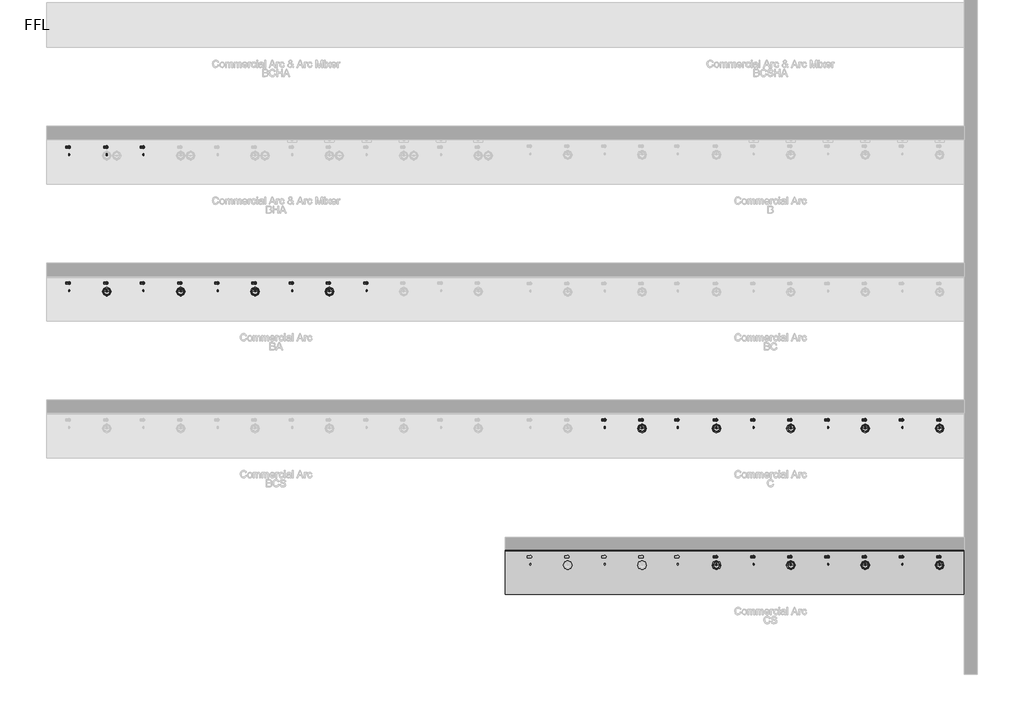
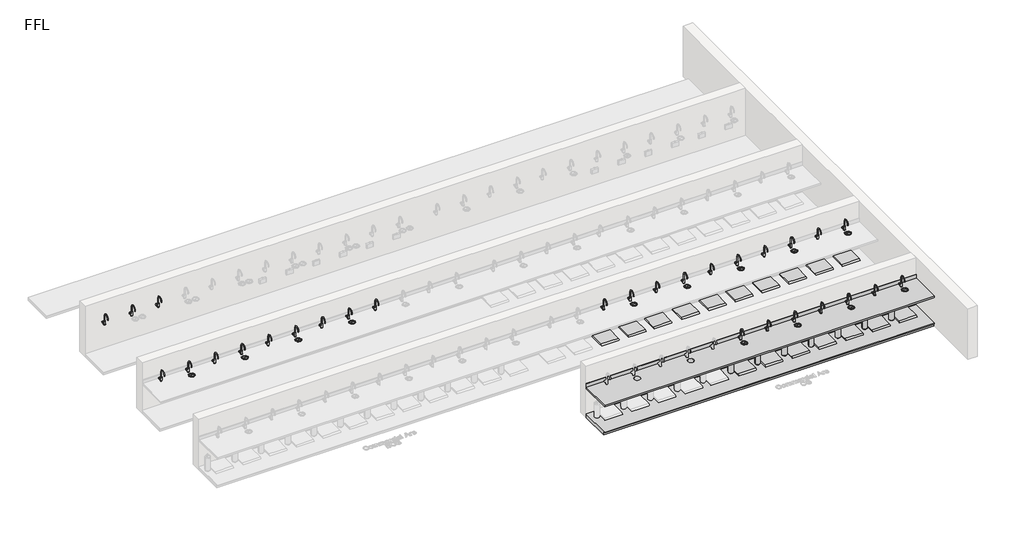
# One storey, part 3 of 10: 86 flow terminals, 2 furniture elements.
"""IFC4 building model written with IfcOpenShell, lengths in millimetres."""

from ifc_helpers import new_model, si_unit, frame, origin, place, context, project, spatial, polyline, circle_curve, transform, mapped, element, save
from ifc_brep_helpers import plane_surface, revolved_surface, advanced_brep
from components import flow_terminal_1fd3c137, bright_chrome_dafbc2dd, brushed_chrome_743c02cf, co2_gas_cylinder_20234e14, bcs_and_bc_6de74493, generic_plinth_900mm_24ad1541

model = new_model("IFC4")

# Units and contexts
model_context = context("Model", 3, world=origin())
ifc_project = project(units=[si_unit("LENGTHUNIT", "METRE", prefix="MILLI")], contexts=[model_context])

# Site, building, storey
site = spatial("IfcSite", under=ifc_project)
building = spatial("IfcBuilding", under=site)
storey = spatial("IfcBuildingStorey", under=building, Name="FFL", Elevation=0.0)

# Flow terminals
placement = place(None, origin())
flow_terminal_shape = flow_terminal_1fd3c137(model_context)
element("IfcFlowTerminal", 1, ObjectType="z_PlumFixt_Zenith_Booster : Booster", at=placement, inside=storey, context=model_context, shape_type="MappedRepresentation", body=[
    mapped(flow_terminal_shape, transform((4286.2647071, -379.7606696, 538.0), x_axis=(1.0, 0.0, 0.0), y_axis=(0.0, 1.0, 0.0), z_axis=(0.0, 0.0, 1.0))),
])
element("IfcFlowTerminal", 2, ObjectType="z_PlumFixt_Zenith_Booster : Booster", at=placement, inside=storey, context=model_context, shape_type="MappedRepresentation", body=[
    mapped(flow_terminal_shape, transform((5036.2647071, -379.7606696, 538.0), x_axis=(1.0, 0.0, 0.0), y_axis=(0.0, 1.0, 0.0), z_axis=(0.0, 0.0, 1.0))),
])
element("IfcFlowTerminal", 3, ObjectType="z_PlumFixt_Zenith_Booster : Booster", at=placement, inside=storey, context=model_context, shape_type="MappedRepresentation", body=[
    mapped(flow_terminal_shape, transform((5758.2647071, -379.7606696, 538.0), x_axis=(1.0, 0.0, 0.0), y_axis=(0.0, 1.0, 0.0), z_axis=(0.0, 0.0, 1.0))),
])
element("IfcFlowTerminal", 4, ObjectType="z_PlumFixt_Zenith_Booster : Booster", at=placement, inside=storey, context=model_context, shape_type="MappedRepresentation", body=[
    mapped(flow_terminal_shape, transform((6536.2647071, -379.7606696, 538.0), x_axis=(1.0, 0.0, 0.0), y_axis=(0.0, 1.0, 0.0), z_axis=(0.0, 0.0, 1.0))),
])
element("IfcFlowTerminal", 5, ObjectType="z_PlumFixt_Zenith_Booster : Booster", at=placement, inside=storey, context=model_context, shape_type="MappedRepresentation", body=[
    mapped(flow_terminal_shape, transform((7286.2647071, -379.7606696, 538.0), x_axis=(1.0, 0.0, 0.0), y_axis=(0.0, 1.0, 0.0), z_axis=(0.0, 0.0, 1.0))),
])
element("IfcFlowTerminal", 6, ObjectType="z_PlumFixt_Zenith_Booster : Booster", at=placement, inside=storey, context=model_context, shape_type="MappedRepresentation", body=[
    mapped(flow_terminal_shape, transform((8036.2647071, -379.7606696, 538.0), x_axis=(1.0, 0.0, 0.0), y_axis=(0.0, 1.0, 0.0), z_axis=(0.0, 0.0, 1.0))),
])
element("IfcFlowTerminal", 7, ObjectType="z_PlumFixt_Zenith_Booster : Booster", at=placement, inside=storey, context=model_context, shape_type="MappedRepresentation", body=[
    mapped(flow_terminal_shape, transform((8786.2647071, -379.7606696, 538.0), x_axis=(1.0, 0.0, 0.0), y_axis=(0.0, 1.0, 0.0), z_axis=(0.0, 0.0, 1.0))),
])
element("IfcFlowTerminal", 8, ObjectType="z_PlumFixt_Zenith_Booster : Booster", at=placement, inside=storey, context=model_context, shape_type="MappedRepresentation", body=[
    mapped(flow_terminal_shape, transform((9536.2647071, -379.7606696, 538.0), x_axis=(1.0, 0.0, 0.0), y_axis=(0.0, 1.0, 0.0), z_axis=(0.0, 0.0, 1.0))),
])
element("IfcFlowTerminal", 9, ObjectType="z_PlumFixt_Zenith_Booster : Booster", at=placement, inside=storey, context=model_context, shape_type="MappedRepresentation", body=[
    mapped(flow_terminal_shape, transform((10286.2647071, -379.7606696, 538.0), x_axis=(1.0, 0.0, 0.0), y_axis=(0.0, 1.0, 0.0), z_axis=(0.0, 0.0, 1.0))),
])
element("IfcFlowTerminal", 10, ObjectType="z_PlumFixt_Zenith_Booster : Booster", at=placement, inside=storey, context=model_context, shape_type="MappedRepresentation", body=[
    mapped(flow_terminal_shape, transform((11036.2647071, -379.7606696, 538.0), x_axis=(1.0, 0.0, 0.0), y_axis=(0.0, 1.0, 0.0), z_axis=(0.0, 0.0, 1.0))),
])
element("IfcFlowTerminal", 11, ObjectType="z_PlumFixt_Zenith_Booster : Booster", at=placement, inside=storey, context=model_context, shape_type="MappedRepresentation", body=[
    mapped(flow_terminal_shape, transform((6536.2647071, -3139.7606696, 538.0), x_axis=(1.0, 0.0, 0.0), y_axis=(0.0, 1.0, 0.0), z_axis=(0.0, 0.0, 1.0))),
])
element("IfcFlowTerminal", 12, ObjectType="z_PlumFixt_Zenith_Booster : Booster", at=placement, inside=storey, context=model_context, shape_type="MappedRepresentation", body=[
    mapped(flow_terminal_shape, transform((7286.2647071, -3139.7606696, 538.0), x_axis=(1.0, 0.0, 0.0), y_axis=(0.0, 1.0, 0.0), z_axis=(0.0, 0.0, 1.0))),
])
element("IfcFlowTerminal", 13, ObjectType="z_PlumFixt_Zenith_Booster : Booster", at=placement, inside=storey, context=model_context, shape_type="MappedRepresentation", body=[
    mapped(flow_terminal_shape, transform((8036.2647071, -3139.7606696, 538.0), x_axis=(1.0, 0.0, 0.0), y_axis=(0.0, 1.0, 0.0), z_axis=(0.0, 0.0, 1.0))),
])
element("IfcFlowTerminal", 14, ObjectType="z_PlumFixt_Zenith_Booster : Booster", at=placement, inside=storey, context=model_context, shape_type="MappedRepresentation", body=[
    mapped(flow_terminal_shape, transform((8786.2647071, -3139.7606696, 538.0), x_axis=(1.0, 0.0, 0.0), y_axis=(0.0, 1.0, 0.0), z_axis=(0.0, 0.0, 1.0))),
])
element("IfcFlowTerminal", 15, ObjectType="z_PlumFixt_Zenith_Booster : Booster", at=placement, inside=storey, context=model_context, shape_type="MappedRepresentation", body=[
    mapped(flow_terminal_shape, transform((9536.2647071, -3139.7606696, 538.0), x_axis=(1.0, 0.0, 0.0), y_axis=(0.0, 1.0, 0.0), z_axis=(0.0, 0.0, 1.0))),
])
element("IfcFlowTerminal", 16, ObjectType="z_PlumFixt_Zenith_Booster : Booster", at=placement, inside=storey, context=model_context, shape_type="MappedRepresentation", body=[
    mapped(flow_terminal_shape, transform((10286.2647071, -3139.7606696, 538.0), x_axis=(1.0, 0.0, 0.0), y_axis=(0.0, 1.0, 0.0), z_axis=(0.0, 0.0, 1.0))),
])
element("IfcFlowTerminal", 17, ObjectType="z_PlumFixt_Zenith_Booster : Booster", at=placement, inside=storey, context=model_context, shape_type="MappedRepresentation", body=[
    mapped(flow_terminal_shape, transform((11036.2647071, -3139.7606696, 538.0), x_axis=(1.0, 0.0, 0.0), y_axis=(0.0, 1.0, 0.0), z_axis=(0.0, 0.0, 1.0))),
])
element("IfcFlowTerminal", 18, ObjectType="z_PlumFixt_Zenith_Booster : Booster", at=placement, inside=storey, context=model_context, shape_type="MappedRepresentation", body=[
    mapped(flow_terminal_shape, transform((-516.7352929, 2380.2393304, 498.0), x_axis=(1.0, 0.0, 0.0), y_axis=(0.0, 1.0, 0.0), z_axis=(0.0, 0.0, 1.0))),
])
element("IfcFlowTerminal", 19, ObjectType="z_PlumFixt_Zenith_Booster : Booster", at=placement, inside=storey, context=model_context, shape_type="MappedRepresentation", body=[
    mapped(flow_terminal_shape, transform((-1266.7352929, 2380.2393304, 498.0), x_axis=(1.0, 0.0, 0.0), y_axis=(0.0, 1.0, 0.0), z_axis=(0.0, 0.0, 1.0))),
])
element("IfcFlowTerminal", 20, ObjectType="z_PlumFixt_Zenith_Booster : Booster", at=placement, inside=storey, context=model_context, shape_type="MappedRepresentation", body=[
    mapped(flow_terminal_shape, transform((-2016.7352929, 2380.2393304, 498.0), x_axis=(1.0, 0.0, 0.0), y_axis=(0.0, 1.0, 0.0), z_axis=(0.0, 0.0, 1.0))),
])
bright_chrome_shape = bright_chrome_dafbc2dd(model_context)
element("IfcFlowTerminal", 21, ObjectType="z_PlumFixt_Zenith_Arc : Bright Chrome", at=placement, inside=storey, context=model_context, shape_type="MappedRepresentation", body=[
    mapped(bright_chrome_shape, transform((-6533.7352929, 2105.7393304, 900.0), x_axis=(1.0, 0.0, 0.0), y_axis=(0.0, 1.0, 0.0), z_axis=(0.0, 0.0, 1.0))),
])
element("IfcFlowTerminal", 22, ObjectType="z_PlumFixt_Zenith_Arc : Bright Chrome", at=placement, inside=storey, context=model_context, shape_type="MappedRepresentation", body=[
    mapped(bright_chrome_shape, transform((-6533.7352929, 4850.7393304, 900.0), x_axis=(1.0, 0.0, 0.0), y_axis=(0.0, 1.0, 0.0), z_axis=(0.0, 0.0, 1.0))),
])
brushed_chrome_shape = brushed_chrome_743c02cf(model_context)
element("IfcFlowTerminal", 23, ObjectType="z_PlumFixt_Zenith_Font : Brushed Chrome", at=placement, inside=storey, context=model_context, shape_type="MappedRepresentation", body=[
    mapped(brushed_chrome_shape, transform((-5756.7352929, 2006.2393304, 900.0), x_axis=(1.0, 0.0, 0.0), y_axis=(0.0, 1.0, 0.0), z_axis=(0.0, 0.0, 1.0))),
])
element("IfcFlowTerminal", 24, ObjectType="z_PlumFixt_Zenith_Arc : Brushed Chrome", at=placement, inside=storey, context=model_context, shape_type="MappedRepresentation", body=[
    mapped(bright_chrome_shape, transform((-5773.7352929, 2105.7393304, 900.0), x_axis=(1.0, 0.0, 0.0), y_axis=(0.0, 1.0, 0.0), z_axis=(0.0, 0.0, 1.0))),
])
element("IfcFlowTerminal", 25, ObjectType="z_PlumFixt_Zenith_Arc : Brushed Chrome", at=placement, inside=storey, context=model_context, shape_type="MappedRepresentation", body=[
    mapped(bright_chrome_shape, transform((-5773.7352929, 4850.7393304, 900.0), x_axis=(1.0, 0.0, 0.0), y_axis=(0.0, 1.0, 0.0), z_axis=(0.0, 0.0, 1.0))),
])
element("IfcFlowTerminal", 26, ObjectType="z_PlumFixt_Zenith_Arc : Brushed Gold", at=placement, inside=storey, context=model_context, shape_type="MappedRepresentation", body=[
    mapped(bright_chrome_shape, transform((4269.2647071, -654.2606696, 900.0), x_axis=(1.0, 0.0, 0.0), y_axis=(0.0, 1.0, 0.0), z_axis=(0.0, 0.0, 1.0))),
])
element("IfcFlowTerminal", 27, ObjectType="z_PlumFixt_Zenith_Arc : Brushed Gold", at=placement, inside=storey, context=model_context, shape_type="MappedRepresentation", body=[
    mapped(bright_chrome_shape, transform((-5033.7352929, 2105.7393304, 900.0), x_axis=(1.0, 0.0, 0.0), y_axis=(0.0, 1.0, 0.0), z_axis=(0.0, 0.0, 1.0))),
])
element("IfcFlowTerminal", 28, ObjectType="z_PlumFixt_Zenith_Arc : Brushed Gold", at=placement, inside=storey, context=model_context, shape_type="MappedRepresentation", body=[
    mapped(bright_chrome_shape, transform((-5033.7352929, 4850.7393304, 900.0), x_axis=(1.0, 0.0, 0.0), y_axis=(0.0, 1.0, 0.0), z_axis=(0.0, 0.0, 1.0))),
])
element("IfcFlowTerminal", 29, ObjectType="z_PlumFixt_Zenith_Font : Brushed Nickel", at=placement, inside=storey, context=model_context, shape_type="MappedRepresentation", body=[
    mapped(brushed_chrome_shape, transform((5036.2647071, -753.7606696, 900.0), x_axis=(1.0, 0.0, 0.0), y_axis=(0.0, 1.0, 0.0), z_axis=(0.0, 0.0, 1.0))),
])
element("IfcFlowTerminal", 30, ObjectType="z_PlumFixt_Zenith_Font : Brushed Nickel", at=placement, inside=storey, context=model_context, shape_type="MappedRepresentation", body=[
    mapped(brushed_chrome_shape, transform((-4266.7352929, 2006.2393304, 900.0), x_axis=(1.0, 0.0, 0.0), y_axis=(0.0, 1.0, 0.0), z_axis=(0.0, 0.0, 1.0))),
])
element("IfcFlowTerminal", 31, ObjectType="z_PlumFixt_Zenith_Arc : Brushed Nickel", at=placement, inside=storey, context=model_context, shape_type="MappedRepresentation", body=[
    mapped(bright_chrome_shape, transform((5019.2647071, -654.2606696, 900.0), x_axis=(1.0, 0.0, 0.0), y_axis=(0.0, 1.0, 0.0), z_axis=(0.0, 0.0, 1.0))),
])
element("IfcFlowTerminal", 32, ObjectType="z_PlumFixt_Zenith_Arc : Brushed Nickel", at=placement, inside=storey, context=model_context, shape_type="MappedRepresentation", body=[
    mapped(bright_chrome_shape, transform((-4283.7352929, 2105.7393304, 900.0), x_axis=(1.0, 0.0, 0.0), y_axis=(0.0, 1.0, 0.0), z_axis=(0.0, 0.0, 1.0))),
])
element("IfcFlowTerminal", 33, ObjectType="z_PlumFixt_Zenith_Arc : Brushed Rose Gold", at=placement, inside=storey, context=model_context, shape_type="MappedRepresentation", body=[
    mapped(bright_chrome_shape, transform((5741.2647071, -654.2606696, 900.0), x_axis=(1.0, 0.0, 0.0), y_axis=(0.0, 1.0, 0.0), z_axis=(0.0, 0.0, 1.0))),
])
element("IfcFlowTerminal", 34, ObjectType="z_PlumFixt_Zenith_Arc : Brushed Rose Gold", at=placement, inside=storey, context=model_context, shape_type="MappedRepresentation", body=[
    mapped(bright_chrome_shape, transform((-3533.7352929, 2105.7393304, 900.0), x_axis=(1.0, 0.0, 0.0), y_axis=(0.0, 1.0, 0.0), z_axis=(0.0, 0.0, 1.0))),
])
co2_gas_cylinder_shape = co2_gas_cylinder_20234e14(model_context)
element("IfcFlowTerminal", 35, ObjectType="z_PlumFixt_Zenith_CO2 Gas Cylinder : CO2 Gas Cylinder", at=placement, inside=storey, context=model_context, shape_type="MappedRepresentation", body=[
    mapped(co2_gas_cylinder_shape, transform((6198.2647071, -3521.7606696, 100.0), x_axis=(-1.0, 0.0, 0.0), y_axis=(0.0, -1.0, 0.0), z_axis=(0.0, 0.0, 1.0))),
])
element("IfcFlowTerminal", 36, ObjectType="z_PlumFixt_Zenith_CO2 Gas Cylinder : CO2 Gas Cylinder", at=placement, inside=storey, context=model_context, shape_type="MappedRepresentation", body=[
    mapped(co2_gas_cylinder_shape, transform((6948.2647071, -3521.7606696, 100.0), x_axis=(-1.0, 0.0, 0.0), y_axis=(0.0, -1.0, 0.0), z_axis=(0.0, 0.0, 1.0))),
])
element("IfcFlowTerminal", 37, ObjectType="z_PlumFixt_Zenith_CO2 Gas Cylinder : CO2 Gas Cylinder", at=placement, inside=storey, context=model_context, shape_type="MappedRepresentation", body=[
    mapped(co2_gas_cylinder_shape, transform((7698.2647071, -3521.7606696, 100.0), x_axis=(-1.0, 0.0, 0.0), y_axis=(0.0, -1.0, 0.0), z_axis=(0.0, 0.0, 1.0))),
])
element("IfcFlowTerminal", 38, ObjectType="z_PlumFixt_Zenith_CO2 Gas Cylinder : CO2 Gas Cylinder", at=placement, inside=storey, context=model_context, shape_type="MappedRepresentation", body=[
    mapped(co2_gas_cylinder_shape, transform((8448.2647071, -3521.7606696, 100.0), x_axis=(-1.0, 0.0, 0.0), y_axis=(0.0, -1.0, 0.0), z_axis=(0.0, 0.0, 1.0))),
])
element("IfcFlowTerminal", 39, ObjectType="z_PlumFixt_Zenith_CO2 Gas Cylinder : CO2 Gas Cylinder", at=placement, inside=storey, context=model_context, shape_type="MappedRepresentation", body=[
    mapped(co2_gas_cylinder_shape, transform((9198.2647071, -3521.7606696, 100.0), x_axis=(-1.0, 0.0, 0.0), y_axis=(0.0, -1.0, 0.0), z_axis=(0.0, 0.0, 1.0))),
])
element("IfcFlowTerminal", 40, ObjectType="z_PlumFixt_Zenith_CO2 Gas Cylinder : CO2 Gas Cylinder", at=placement, inside=storey, context=model_context, shape_type="MappedRepresentation", body=[
    mapped(co2_gas_cylinder_shape, transform((9948.2647071, -3521.7606696, 100.0), x_axis=(-1.0, 0.0, 0.0), y_axis=(0.0, -1.0, 0.0), z_axis=(0.0, 0.0, 1.0))),
])
element("IfcFlowTerminal", 41, ObjectType="z_PlumFixt_Zenith_CO2 Gas Cylinder : CO2 Gas Cylinder", at=placement, inside=storey, context=model_context, shape_type="MappedRepresentation", body=[
    mapped(co2_gas_cylinder_shape, transform((10698.2647071, -3521.7606696, 100.0), x_axis=(-1.0, 0.0, 0.0), y_axis=(0.0, -1.0, 0.0), z_axis=(0.0, 0.0, 1.0))),
])
bcs_and_bc_shape = bcs_and_bc_6de74493(model_context)
element("IfcFlowTerminal", 42, ObjectType="z_PlumFixt_Zenith_Vent Tray : CS and C", at=placement, inside=storey, context=model_context, shape_type="MappedRepresentation", body=[
    mapped(bcs_and_bc_shape, transform((4286.2647071, -559.2606696, 100.0), x_axis=(1.0, 0.0, 0.0), y_axis=(0.0, 1.0, 0.0), z_axis=(0.0, 0.0, 1.0))),
])
element("IfcFlowTerminal", 43, ObjectType="z_PlumFixt_Zenith_Vent Tray : CS and C", at=placement, inside=storey, context=model_context, shape_type="MappedRepresentation", body=[
    mapped(bcs_and_bc_shape, transform((5036.2647071, -559.2606696, 100.0), x_axis=(1.0, 0.0, 0.0), y_axis=(0.0, 1.0, 0.0), z_axis=(0.0, 0.0, 1.0))),
])
element("IfcFlowTerminal", 44, ObjectType="z_PlumFixt_Zenith_Vent Tray : CS and C", at=placement, inside=storey, context=model_context, shape_type="MappedRepresentation", body=[
    mapped(bcs_and_bc_shape, transform((5758.2647071, -559.2606696, 100.0), x_axis=(1.0, 0.0, 0.0), y_axis=(0.0, 1.0, 0.0), z_axis=(0.0, 0.0, 1.0))),
])
element("IfcFlowTerminal", 45, ObjectType="z_PlumFixt_Zenith_Vent Tray : CS and C", at=placement, inside=storey, context=model_context, shape_type="MappedRepresentation", body=[
    mapped(bcs_and_bc_shape, transform((6536.2647071, -559.2606696, 100.0), x_axis=(1.0, 0.0, 0.0), y_axis=(0.0, 1.0, 0.0), z_axis=(0.0, 0.0, 1.0))),
])
element("IfcFlowTerminal", 46, ObjectType="z_PlumFixt_Zenith_Vent Tray : CS and C", at=placement, inside=storey, context=model_context, shape_type="MappedRepresentation", body=[
    mapped(bcs_and_bc_shape, transform((7286.2647071, -559.2606696, 100.0), x_axis=(1.0, 0.0, 0.0), y_axis=(0.0, 1.0, 0.0), z_axis=(0.0, 0.0, 1.0))),
])
element("IfcFlowTerminal", 47, ObjectType="z_PlumFixt_Zenith_Vent Tray : CS and C", at=placement, inside=storey, context=model_context, shape_type="MappedRepresentation", body=[
    mapped(bcs_and_bc_shape, transform((8036.2647071, -559.2606696, 100.0), x_axis=(1.0, 0.0, 0.0), y_axis=(0.0, 1.0, 0.0), z_axis=(0.0, 0.0, 1.0))),
])
element("IfcFlowTerminal", 48, ObjectType="z_PlumFixt_Zenith_Vent Tray : CS and C", at=placement, inside=storey, context=model_context, shape_type="MappedRepresentation", body=[
    mapped(bcs_and_bc_shape, transform((8786.2647071, -559.2606696, 100.0), x_axis=(1.0, 0.0, 0.0), y_axis=(0.0, 1.0, 0.0), z_axis=(0.0, 0.0, 1.0))),
])
element("IfcFlowTerminal", 49, ObjectType="z_PlumFixt_Zenith_Vent Tray : CS and C", at=placement, inside=storey, context=model_context, shape_type="MappedRepresentation", body=[
    mapped(bcs_and_bc_shape, transform((9536.2647071, -559.2606696, 100.0), x_axis=(1.0, 0.0, 0.0), y_axis=(0.0, 1.0, 0.0), z_axis=(0.0, 0.0, 1.0))),
])
element("IfcFlowTerminal", 50, ObjectType="z_PlumFixt_Zenith_Vent Tray : CS and C", at=placement, inside=storey, context=model_context, shape_type="MappedRepresentation", body=[
    mapped(bcs_and_bc_shape, transform((10286.2647071, -559.2606696, 100.0), x_axis=(1.0, 0.0, 0.0), y_axis=(0.0, 1.0, 0.0), z_axis=(0.0, 0.0, 1.0))),
])
element("IfcFlowTerminal", 51, ObjectType="z_PlumFixt_Zenith_Vent Tray : CS and C", at=placement, inside=storey, context=model_context, shape_type="MappedRepresentation", body=[
    mapped(bcs_and_bc_shape, transform((11036.2647071, -559.2606696, 100.0), x_axis=(1.0, 0.0, 0.0), y_axis=(0.0, 1.0, 0.0), z_axis=(0.0, 0.0, 1.0))),
])
element("IfcFlowTerminal", 52, ObjectType="z_PlumFixt_Zenith_Vent Tray : CS and C", at=placement, inside=storey, context=model_context, shape_type="MappedRepresentation", body=[
    mapped(bcs_and_bc_shape, transform((6536.2647071, -3319.2606696, 100.0), x_axis=(1.0, 0.0, 0.0), y_axis=(0.0, 1.0, 0.0), z_axis=(0.0, 0.0, 1.0))),
])
element("IfcFlowTerminal", 53, ObjectType="z_PlumFixt_Zenith_Vent Tray : CS and C", at=placement, inside=storey, context=model_context, shape_type="MappedRepresentation", body=[
    mapped(bcs_and_bc_shape, transform((7286.2647071, -3319.2606696, 100.0), x_axis=(1.0, 0.0, 0.0), y_axis=(0.0, 1.0, 0.0), z_axis=(0.0, 0.0, 1.0))),
])
element("IfcFlowTerminal", 54, ObjectType="z_PlumFixt_Zenith_Vent Tray : CS and C", at=placement, inside=storey, context=model_context, shape_type="MappedRepresentation", body=[
    mapped(bcs_and_bc_shape, transform((8036.2647071, -3319.2606696, 100.0), x_axis=(1.0, 0.0, 0.0), y_axis=(0.0, 1.0, 0.0), z_axis=(0.0, 0.0, 1.0))),
])
element("IfcFlowTerminal", 55, ObjectType="z_PlumFixt_Zenith_Vent Tray : CS and C", at=placement, inside=storey, context=model_context, shape_type="MappedRepresentation", body=[
    mapped(bcs_and_bc_shape, transform((8786.2647071, -3319.2606696, 100.0), x_axis=(1.0, 0.0, 0.0), y_axis=(0.0, 1.0, 0.0), z_axis=(0.0, 0.0, 1.0))),
])
element("IfcFlowTerminal", 56, ObjectType="z_PlumFixt_Zenith_Vent Tray : CS and C", at=placement, inside=storey, context=model_context, shape_type="MappedRepresentation", body=[
    mapped(bcs_and_bc_shape, transform((9536.2647071, -3319.2606696, 100.0), x_axis=(1.0, 0.0, 0.0), y_axis=(0.0, 1.0, 0.0), z_axis=(0.0, 0.0, 1.0))),
])
element("IfcFlowTerminal", 57, ObjectType="z_PlumFixt_Zenith_Vent Tray : CS and C", at=placement, inside=storey, context=model_context, shape_type="MappedRepresentation", body=[
    mapped(bcs_and_bc_shape, transform((10286.2647071, -3319.2606696, 100.0), x_axis=(1.0, 0.0, 0.0), y_axis=(0.0, 1.0, 0.0), z_axis=(0.0, 0.0, 1.0))),
])
element("IfcFlowTerminal", 58, ObjectType="z_PlumFixt_Zenith_Vent Tray : CS and C", at=placement, inside=storey, context=model_context, shape_type="MappedRepresentation", body=[
    mapped(bcs_and_bc_shape, transform((11036.2647071, -3319.2606696, 100.0), x_axis=(1.0, 0.0, 0.0), y_axis=(0.0, 1.0, 0.0), z_axis=(0.0, 0.0, 1.0))),
])
element("IfcFlowTerminal", 59, ObjectType="z_PlumFixt_Zenith_Font : Gloss Black", at=placement, inside=storey, context=model_context, shape_type="MappedRepresentation", body=[
    mapped(brushed_chrome_shape, transform((6536.2647071, -753.7606696, 900.0), x_axis=(1.0, 0.0, 0.0), y_axis=(0.0, 1.0, 0.0), z_axis=(0.0, 0.0, 1.0))),
])
element("IfcFlowTerminal", 60, ObjectType="z_PlumFixt_Zenith_Font : Gloss Black", at=placement, inside=storey, context=model_context, shape_type="MappedRepresentation", body=[
    mapped(brushed_chrome_shape, transform((6536.2647071, -3513.7606696, 900.0), x_axis=(1.0, 0.0, 0.0), y_axis=(0.0, 1.0, 0.0), z_axis=(0.0, 0.0, 1.0))),
])
element("IfcFlowTerminal", 61, ObjectType="z_PlumFixt_Zenith_Font : Gloss Black", at=placement, inside=storey, context=model_context, shape_type="MappedRepresentation", body=[
    mapped(brushed_chrome_shape, transform((-2766.7352929, 2006.2393304, 900.0), x_axis=(1.0, 0.0, 0.0), y_axis=(0.0, 1.0, 0.0), z_axis=(0.0, 0.0, 1.0))),
])
element("IfcFlowTerminal", 62, ObjectType="z_PlumFixt_Zenith_Arc : Gloss Black", at=placement, inside=storey, context=model_context, shape_type="MappedRepresentation", body=[
    mapped(bright_chrome_shape, transform((6519.2647071, -654.2606696, 900.0), x_axis=(1.0, 0.0, 0.0), y_axis=(0.0, 1.0, 0.0), z_axis=(0.0, 0.0, 1.0))),
])
element("IfcFlowTerminal", 63, ObjectType="z_PlumFixt_Zenith_Arc : Gloss Black", at=placement, inside=storey, context=model_context, shape_type="MappedRepresentation", body=[
    mapped(bright_chrome_shape, transform((6519.2647071, -3414.2606696, 900.0), x_axis=(1.0, 0.0, 0.0), y_axis=(0.0, 1.0, 0.0), z_axis=(0.0, 0.0, 1.0))),
])
element("IfcFlowTerminal", 64, ObjectType="z_PlumFixt_Zenith_Arc : Gloss Black", at=placement, inside=storey, context=model_context, shape_type="MappedRepresentation", body=[
    mapped(bright_chrome_shape, transform((-2783.7352929, 2105.7393304, 900.0), x_axis=(1.0, 0.0, 0.0), y_axis=(0.0, 1.0, 0.0), z_axis=(0.0, 0.0, 1.0))),
])
element("IfcFlowTerminal", 65, ObjectType="z_PlumFixt_Zenith_Arc : Gold", at=placement, inside=storey, context=model_context, shape_type="MappedRepresentation", body=[
    mapped(bright_chrome_shape, transform((7269.2647071, -654.2606696, 900.0), x_axis=(1.0, 0.0, 0.0), y_axis=(0.0, 1.0, 0.0), z_axis=(0.0, 0.0, 1.0))),
])
element("IfcFlowTerminal", 66, ObjectType="z_PlumFixt_Zenith_Arc : Gold", at=placement, inside=storey, context=model_context, shape_type="MappedRepresentation", body=[
    mapped(bright_chrome_shape, transform((7269.2647071, -3414.2606696, 900.0), x_axis=(1.0, 0.0, 0.0), y_axis=(0.0, 1.0, 0.0), z_axis=(0.0, 0.0, 1.0))),
])
element("IfcFlowTerminal", 67, ObjectType="z_PlumFixt_Zenith_Arc : Gold", at=placement, inside=storey, context=model_context, shape_type="MappedRepresentation", body=[
    mapped(bright_chrome_shape, transform((-2033.7352929, 2105.7393304, 900.0), x_axis=(1.0, 0.0, 0.0), y_axis=(0.0, 1.0, 0.0), z_axis=(0.0, 0.0, 1.0))),
])
element("IfcFlowTerminal", 68, ObjectType="z_PlumFixt_Zenith_Font : Gunmetal", at=placement, inside=storey, context=model_context, shape_type="MappedRepresentation", body=[
    mapped(brushed_chrome_shape, transform((8036.2647071, -753.7606696, 900.0), x_axis=(1.0, 0.0, 0.0), y_axis=(0.0, 1.0, 0.0), z_axis=(0.0, 0.0, 1.0))),
])
element("IfcFlowTerminal", 69, ObjectType="z_PlumFixt_Zenith_Font : Gunmetal", at=placement, inside=storey, context=model_context, shape_type="MappedRepresentation", body=[
    mapped(brushed_chrome_shape, transform((8036.2647071, -3513.7606696, 900.0), x_axis=(1.0, 0.0, 0.0), y_axis=(0.0, 1.0, 0.0), z_axis=(0.0, 0.0, 1.0))),
])
element("IfcFlowTerminal", 70, ObjectType="z_PlumFixt_Zenith_Font : Gunmetal", at=placement, inside=storey, context=model_context, shape_type="MappedRepresentation", body=[
    mapped(brushed_chrome_shape, transform((-1266.7352929, 2006.2393304, 900.0), x_axis=(1.0, 0.0, 0.0), y_axis=(0.0, 1.0, 0.0), z_axis=(0.0, 0.0, 1.0))),
])
element("IfcFlowTerminal", 71, ObjectType="z_PlumFixt_Zenith_Arc : Gunmetal", at=placement, inside=storey, context=model_context, shape_type="MappedRepresentation", body=[
    mapped(bright_chrome_shape, transform((8019.2647071, -654.2606696, 900.0), x_axis=(1.0, 0.0, 0.0), y_axis=(0.0, 1.0, 0.0), z_axis=(0.0, 0.0, 1.0))),
])
element("IfcFlowTerminal", 72, ObjectType="z_PlumFixt_Zenith_Arc : Gunmetal", at=placement, inside=storey, context=model_context, shape_type="MappedRepresentation", body=[
    mapped(bright_chrome_shape, transform((8019.2647071, -3414.2606696, 900.0), x_axis=(1.0, 0.0, 0.0), y_axis=(0.0, 1.0, 0.0), z_axis=(0.0, 0.0, 1.0))),
])
element("IfcFlowTerminal", 73, ObjectType="z_PlumFixt_Zenith_Arc : Gunmetal", at=placement, inside=storey, context=model_context, shape_type="MappedRepresentation", body=[
    mapped(bright_chrome_shape, transform((-1283.7352929, 2105.7393304, 900.0), x_axis=(1.0, 0.0, 0.0), y_axis=(0.0, 1.0, 0.0), z_axis=(0.0, 0.0, 1.0))),
])
element("IfcFlowTerminal", 74, ObjectType="z_PlumFixt_Zenith_Arc : Matte Black", at=placement, inside=storey, context=model_context, shape_type="MappedRepresentation", body=[
    mapped(bright_chrome_shape, transform((8769.2647071, -654.2606696, 900.0), x_axis=(1.0, 0.0, 0.0), y_axis=(0.0, 1.0, 0.0), z_axis=(0.0, 0.0, 1.0))),
])
element("IfcFlowTerminal", 75, ObjectType="z_PlumFixt_Zenith_Arc : Matte Black", at=placement, inside=storey, context=model_context, shape_type="MappedRepresentation", body=[
    mapped(bright_chrome_shape, transform((8769.2647071, -3414.2606696, 900.0), x_axis=(1.0, 0.0, 0.0), y_axis=(0.0, 1.0, 0.0), z_axis=(0.0, 0.0, 1.0))),
])
element("IfcFlowTerminal", 76, ObjectType="z_PlumFixt_Zenith_Arc : Matte Black", at=placement, inside=storey, context=model_context, shape_type="MappedRepresentation", body=[
    mapped(bright_chrome_shape, transform((-533.7352929, 2105.7393304, 900.0), x_axis=(1.0, 0.0, 0.0), y_axis=(0.0, 1.0, 0.0), z_axis=(0.0, 0.0, 1.0))),
])
element("IfcFlowTerminal", 77, ObjectType="z_PlumFixt_Zenith_Font : Nickel", at=placement, inside=storey, context=model_context, shape_type="MappedRepresentation", body=[
    mapped(brushed_chrome_shape, transform((9536.2647071, -753.7606696, 900.0), x_axis=(1.0, 0.0, 0.0), y_axis=(0.0, 1.0, 0.0), z_axis=(0.0, 0.0, 1.0))),
])
element("IfcFlowTerminal", 78, ObjectType="z_PlumFixt_Zenith_Font : Nickel", at=placement, inside=storey, context=model_context, shape_type="MappedRepresentation", body=[
    mapped(brushed_chrome_shape, transform((9536.2647071, -3513.7606696, 900.0), x_axis=(1.0, 0.0, 0.0), y_axis=(0.0, 1.0, 0.0), z_axis=(0.0, 0.0, 1.0))),
])
element("IfcFlowTerminal", 79, ObjectType="z_PlumFixt_Zenith_Arc : Nickel", at=placement, inside=storey, context=model_context, shape_type="MappedRepresentation", body=[
    mapped(bright_chrome_shape, transform((9519.2647071, -654.2606696, 900.0), x_axis=(1.0, 0.0, 0.0), y_axis=(0.0, 1.0, 0.0), z_axis=(0.0, 0.0, 1.0))),
])
element("IfcFlowTerminal", 80, ObjectType="z_PlumFixt_Zenith_Arc : Nickel", at=placement, inside=storey, context=model_context, shape_type="MappedRepresentation", body=[
    mapped(bright_chrome_shape, transform((9519.2647071, -3414.2606696, 900.0), x_axis=(1.0, 0.0, 0.0), y_axis=(0.0, 1.0, 0.0), z_axis=(0.0, 0.0, 1.0))),
])
element("IfcFlowTerminal", 81, ObjectType="z_PlumFixt_Zenith_Arc : Platinum", at=placement, inside=storey, context=model_context, shape_type="MappedRepresentation", body=[
    mapped(bright_chrome_shape, transform((10269.2647071, -654.2606696, 900.0), x_axis=(1.0, 0.0, 0.0), y_axis=(0.0, 1.0, 0.0), z_axis=(0.0, 0.0, 1.0))),
])
element("IfcFlowTerminal", 82, ObjectType="z_PlumFixt_Zenith_Arc : Platinum", at=placement, inside=storey, context=model_context, shape_type="MappedRepresentation", body=[
    mapped(bright_chrome_shape, transform((10269.2647071, -3414.2606696, 900.0), x_axis=(1.0, 0.0, 0.0), y_axis=(0.0, 1.0, 0.0), z_axis=(0.0, 0.0, 1.0))),
])
element("IfcFlowTerminal", 83, ObjectType="z_PlumFixt_Zenith_Font : Rose Gold", at=placement, inside=storey, context=model_context, shape_type="MappedRepresentation", body=[
    mapped(brushed_chrome_shape, transform((11036.2647071, -753.7606696, 900.0), x_axis=(1.0, 0.0, 0.0), y_axis=(0.0, 1.0, 0.0), z_axis=(0.0, 0.0, 1.0))),
])
element("IfcFlowTerminal", 84, ObjectType="z_PlumFixt_Zenith_Font : Rose Gold", at=placement, inside=storey, context=model_context, shape_type="MappedRepresentation", body=[
    mapped(brushed_chrome_shape, transform((11036.2647071, -3513.7606696, 900.0), x_axis=(1.0, 0.0, 0.0), y_axis=(0.0, 1.0, 0.0), z_axis=(0.0, 0.0, 1.0))),
])
element("IfcFlowTerminal", 85, ObjectType="z_PlumFixt_Zenith_Arc : Rose Gold", at=placement, inside=storey, context=model_context, shape_type="MappedRepresentation", body=[
    mapped(bright_chrome_shape, transform((11019.2647071, -654.2606696, 900.0), x_axis=(1.0, 0.0, 0.0), y_axis=(0.0, 1.0, 0.0), z_axis=(0.0, 0.0, 1.0))),
])
element("IfcFlowTerminal", 86, ObjectType="z_PlumFixt_Zenith_Arc : Rose Gold", at=placement, inside=storey, context=model_context, shape_type="MappedRepresentation", body=[
    mapped(bright_chrome_shape, transform((11019.2647071, -3414.2606696, 900.0), x_axis=(1.0, 0.0, 0.0), y_axis=(0.0, 1.0, 0.0), z_axis=(0.0, 0.0, 1.0))),
])

# Furniture
element("IfcFurniture", 87, ObjectType="Counter Top : 900mm Depth", at=placement, inside=storey, context=model_context, shape_type="AdvancedBrep", body=[
    advanced_brep(
    [(2280.2647071, -4091.7606696, 900.0), (11530.2647071, -4091.7606696, 900.0), (11530.2647071, -3210.8106696, 900.0), (2280.2647071, -3210.8106696, 900.0), (2763.2647071, -3326.7606696, 900.0), (2811.2647071, -3326.7606696, 900.0), (3513.2647071, -3326.7606696, 900.0), (3561.2647071, -3326.7606696, 900.0), (3605.4647071, -3498.7503538, 900.0), (3469.0647071, -3498.7503538, 900.0), (4263.2647071, -3326.7606696, 900.0), (4311.2647071, -3326.7606696, 900.0), (5013.2647071, -3326.7606696, 900.0), (5061.2647071, -3326.7606696, 900.0), (5105.4647071, -3498.7503538, 900.0), (4969.0647071, -3498.7503538, 900.0), (5735.2647071, -3326.7606696, 900.0), (5783.2647071, -3326.7606696, 900.0), (6513.2647071, -3326.7606696, 900.0), (6561.2647071, -3326.7606696, 900.0), (6605.4647071, -3498.7503538, 900.0), (6469.0647071, -3498.7503538, 900.0), (7263.2647071, -3326.7606696, 900.0), (7311.2647071, -3326.7606696, 900.0), (8013.2647071, -3326.7606696, 900.0), (8061.2647071, -3326.7606696, 900.0), (8105.4647071, -3498.7503538, 900.0), (7969.0647071, -3498.7503538, 900.0), (8763.2647071, -3326.7606696, 900.0), (8811.2647071, -3326.7606696, 900.0), (9513.2647071, -3326.7606696, 900.0), (9561.2647071, -3326.7606696, 900.0), (9605.4647071, -3498.7503538, 900.0), (9469.0647071, -3498.7503538, 900.0), (10263.2647071, -3326.7606696, 900.0), (10311.2647071, -3326.7606696, 900.0), (11013.2647071, -3326.7606696, 900.0), (11061.2647071, -3326.7606696, 900.0), (11105.4647071, -3498.7503538, 900.0), (10969.0647071, -3498.7503538, 900.0), (11530.2647071, -3191.7606696, 860.0), (11530.2647071, -4091.7606696, 860.0), (2280.2647071, -4091.7606696, 860.0), (2280.2647071, -3191.7606696, 860.0), (2811.2647071, -3326.7606696, 860.0), (2763.2647071, -3326.7606696, 860.0), (3561.2647071, -3326.7606696, 860.0), (3513.2647071, -3326.7606696, 860.0), (3469.0647071, -3498.7503538, 860.0), (3605.4647071, -3498.7503538, 860.0), (4311.2647071, -3326.7606696, 860.0), (4263.2647071, -3326.7606696, 860.0), (5061.2647071, -3326.7606696, 860.0), (5013.2647071, -3326.7606696, 860.0), (4969.0647071, -3498.7503538, 860.0), (5105.4647071, -3498.7503538, 860.0), (5783.2647071, -3326.7606696, 860.0), (5735.2647071, -3326.7606696, 860.0), (6561.2647071, -3326.7606696, 860.0), (6513.2647071, -3326.7606696, 860.0), (6469.0647071, -3498.7503538, 860.0), (6605.4647071, -3498.7503538, 860.0), (7311.2647071, -3326.7606696, 860.0), (7263.2647071, -3326.7606696, 860.0), (8061.2647071, -3326.7606696, 860.0), (8013.2647071, -3326.7606696, 860.0), (7969.0647071, -3498.7503538, 860.0), (8105.4647071, -3498.7503538, 860.0), (8811.2647071, -3326.7606696, 860.0), (8763.2647071, -3326.7606696, 860.0), (9561.2647071, -3326.7606696, 860.0), (9513.2647071, -3326.7606696, 860.0), (9469.0647071, -3498.7503538, 860.0), (9605.4647071, -3498.7503538, 860.0), (10311.2647071, -3326.7606696, 860.0), (10263.2647071, -3326.7606696, 860.0), (11061.2647071, -3326.7606696, 860.0), (11013.2647071, -3326.7606696, 860.0), (10969.0647071, -3498.7503538, 860.0), (11105.4647071, -3498.7503538, 860.0), (2280.2647071, -3191.7606696, 1001.6), (11530.2647071, -3191.7606696, 1001.6), (2280.2647071, -3210.8106696, 1001.6), (11530.2647071, -3210.8106696, 1001.6)],
    [
        (0, 1),
        (1, 2),
        (2, 3),
        (3, 0),
        (4, 5, circle_curve(frame((2787.2647071, -3326.7606696, 900.0), z_axis=(0.0, 0.0, -1.0), x_axis=(-1.0, 0.0, 0.0)), 24.0)),
        (5, 4, circle_curve(frame((2787.2647071, -3326.7606696, 900.0), z_axis=(0.0, 0.0, -1.0), x_axis=(-1.0, 0.0, 0.0)), 24.0)),
        (6, 7, circle_curve(frame((3537.2647071, -3326.7606696, 900.0), z_axis=(0.0, 0.0, -1.0), x_axis=(-1.0, 0.0, 0.0)), 24.0)),
        (7, 6, circle_curve(frame((3537.2647071, -3326.7606696, 900.0), z_axis=(0.0, 0.0, -1.0), x_axis=(-1.0, 0.0, 0.0)), 24.0)),
        (8, 9, circle_curve(frame((3537.2647071, -3498.7503538, 900.0), z_axis=(0.0, 0.0, -1.0), x_axis=(-1.0, 0.0, 0.0)), 68.2)),
        (9, 8, circle_curve(frame((3537.2647071, -3498.7503538, 900.0), z_axis=(0.0, 0.0, -1.0), x_axis=(-1.0, 0.0, 0.0)), 68.2)),
        (10, 11, circle_curve(frame((4287.2647071, -3326.7606696, 900.0), z_axis=(0.0, 0.0, -1.0), x_axis=(-1.0, 0.0, 0.0)), 24.0)),
        (11, 10, circle_curve(frame((4287.2647071, -3326.7606696, 900.0), z_axis=(0.0, 0.0, -1.0), x_axis=(-1.0, 0.0, 0.0)), 24.0)),
        (12, 13, circle_curve(frame((5037.2647071, -3326.7606696, 900.0), z_axis=(0.0, 0.0, -1.0), x_axis=(-1.0, 0.0, 0.0)), 24.0)),
        (13, 12, circle_curve(frame((5037.2647071, -3326.7606696, 900.0), z_axis=(0.0, 0.0, -1.0), x_axis=(-1.0, 0.0, 0.0)), 24.0)),
        (14, 15, circle_curve(frame((5037.2647071, -3498.7503538, 900.0), z_axis=(0.0, 0.0, -1.0), x_axis=(-1.0, 0.0, 0.0)), 68.2)),
        (15, 14, circle_curve(frame((5037.2647071, -3498.7503538, 900.0), z_axis=(0.0, 0.0, -1.0), x_axis=(-1.0, 0.0, 0.0)), 68.2)),
        (16, 17, circle_curve(frame((5759.2647071, -3326.7606696, 900.0), z_axis=(0.0, 0.0, -1.0), x_axis=(-1.0, 0.0, 0.0)), 24.0)),
        (17, 16, circle_curve(frame((5759.2647071, -3326.7606696, 900.0), z_axis=(0.0, 0.0, -1.0), x_axis=(-1.0, 0.0, 0.0)), 24.0)),
        (18, 19, circle_curve(frame((6537.2647071, -3326.7606696, 900.0), z_axis=(0.0, 0.0, -1.0), x_axis=(-1.0, 0.0, 0.0)), 24.0)),
        (19, 18, circle_curve(frame((6537.2647071, -3326.7606696, 900.0), z_axis=(0.0, 0.0, -1.0), x_axis=(-1.0, 0.0, 0.0)), 24.0)),
        (20, 21, circle_curve(frame((6537.2647071, -3498.7503538, 900.0), z_axis=(0.0, 0.0, -1.0), x_axis=(-1.0, 0.0, 0.0)), 68.2)),
        (21, 20, circle_curve(frame((6537.2647071, -3498.7503538, 900.0), z_axis=(0.0, 0.0, -1.0), x_axis=(-1.0, 0.0, 0.0)), 68.2)),
        (22, 23, circle_curve(frame((7287.2647071, -3326.7606696, 900.0), z_axis=(0.0, 0.0, -1.0), x_axis=(-1.0, 0.0, 0.0)), 24.0)),
        (23, 22, circle_curve(frame((7287.2647071, -3326.7606696, 900.0), z_axis=(0.0, 0.0, -1.0), x_axis=(-1.0, 0.0, 0.0)), 24.0)),
        (24, 25, circle_curve(frame((8037.2647071, -3326.7606696, 900.0), z_axis=(0.0, 0.0, -1.0), x_axis=(-1.0, 0.0, 0.0)), 24.0)),
        (25, 24, circle_curve(frame((8037.2647071, -3326.7606696, 900.0), z_axis=(0.0, 0.0, -1.0), x_axis=(-1.0, 0.0, 0.0)), 24.0)),
        (26, 27, circle_curve(frame((8037.2647071, -3498.7503538, 900.0), z_axis=(0.0, 0.0, -1.0), x_axis=(-1.0, 0.0, 0.0)), 68.2)),
        (27, 26, circle_curve(frame((8037.2647071, -3498.7503538, 900.0), z_axis=(0.0, 0.0, -1.0), x_axis=(-1.0, 0.0, 0.0)), 68.2)),
        (28, 29, circle_curve(frame((8787.2647071, -3326.7606696, 900.0), z_axis=(0.0, 0.0, -1.0), x_axis=(-1.0, 0.0, 0.0)), 24.0)),
        (29, 28, circle_curve(frame((8787.2647071, -3326.7606696, 900.0), z_axis=(0.0, 0.0, -1.0), x_axis=(-1.0, 0.0, 0.0)), 24.0)),
        (30, 31, circle_curve(frame((9537.2647071, -3326.7606696, 900.0), z_axis=(0.0, 0.0, -1.0), x_axis=(-1.0, 0.0, 0.0)), 24.0)),
        (31, 30, circle_curve(frame((9537.2647071, -3326.7606696, 900.0), z_axis=(0.0, 0.0, -1.0), x_axis=(-1.0, 0.0, 0.0)), 24.0)),
        (32, 33, circle_curve(frame((9537.2647071, -3498.7503538, 900.0), z_axis=(0.0, 0.0, -1.0), x_axis=(-1.0, 0.0, 0.0)), 68.2)),
        (33, 32, circle_curve(frame((9537.2647071, -3498.7503538, 900.0), z_axis=(0.0, 0.0, -1.0), x_axis=(-1.0, 0.0, 0.0)), 68.2)),
        (34, 35, circle_curve(frame((10287.2647071, -3326.7606696, 900.0), z_axis=(0.0, 0.0, -1.0), x_axis=(-1.0, 0.0, 0.0)), 24.0)),
        (35, 34, circle_curve(frame((10287.2647071, -3326.7606696, 900.0), z_axis=(0.0, 0.0, -1.0), x_axis=(-1.0, 0.0, 0.0)), 24.0)),
        (36, 37, circle_curve(frame((11037.2647071, -3326.7606696, 900.0), z_axis=(0.0, 0.0, -1.0), x_axis=(-1.0, 0.0, 0.0)), 24.0)),
        (37, 36, circle_curve(frame((11037.2647071, -3326.7606696, 900.0), z_axis=(0.0, 0.0, -1.0), x_axis=(-1.0, 0.0, 0.0)), 24.0)),
        (38, 39, circle_curve(frame((11037.2647071, -3498.7503538, 900.0), z_axis=(0.0, 0.0, -1.0), x_axis=(-1.0, 0.0, 0.0)), 68.2)),
        (39, 38, circle_curve(frame((11037.2647071, -3498.7503538, 900.0), z_axis=(0.0, 0.0, -1.0), x_axis=(-1.0, 0.0, 0.0)), 68.2)),
        (40, 41),
        (41, 42),
        (42, 43),
        (43, 40),
        (44, 45, circle_curve(frame((2787.2647071, -3326.7606696, 860.0), z_axis=(0.0, 0.0, 1.0), x_axis=(-1.0, 0.0, 0.0)), 24.0)),
        (45, 44, circle_curve(frame((2787.2647071, -3326.7606696, 860.0), z_axis=(0.0, 0.0, 1.0), x_axis=(-1.0, 0.0, 0.0)), 24.0)),
        (46, 47, circle_curve(frame((3537.2647071, -3326.7606696, 860.0), z_axis=(0.0, 0.0, 1.0), x_axis=(-1.0, 0.0, 0.0)), 24.0)),
        (47, 46, circle_curve(frame((3537.2647071, -3326.7606696, 860.0), z_axis=(0.0, 0.0, 1.0), x_axis=(-1.0, 0.0, 0.0)), 24.0)),
        (48, 49, circle_curve(frame((3537.2647071, -3498.7503538, 860.0), z_axis=(0.0, 0.0, 1.0), x_axis=(-1.0, 0.0, 0.0)), 68.2)),
        (49, 48, circle_curve(frame((3537.2647071, -3498.7503538, 860.0), z_axis=(0.0, 0.0, 1.0), x_axis=(-1.0, 0.0, 0.0)), 68.2)),
        (50, 51, circle_curve(frame((4287.2647071, -3326.7606696, 860.0), z_axis=(0.0, 0.0, 1.0), x_axis=(-1.0, 0.0, 0.0)), 24.0)),
        (51, 50, circle_curve(frame((4287.2647071, -3326.7606696, 860.0), z_axis=(0.0, 0.0, 1.0), x_axis=(-1.0, 0.0, 0.0)), 24.0)),
        (52, 53, circle_curve(frame((5037.2647071, -3326.7606696, 860.0), z_axis=(0.0, 0.0, 1.0), x_axis=(-1.0, 0.0, 0.0)), 24.0)),
        (53, 52, circle_curve(frame((5037.2647071, -3326.7606696, 860.0), z_axis=(0.0, 0.0, 1.0), x_axis=(-1.0, 0.0, 0.0)), 24.0)),
        (54, 55, circle_curve(frame((5037.2647071, -3498.7503538, 860.0), z_axis=(0.0, 0.0, 1.0), x_axis=(-1.0, 0.0, 0.0)), 68.2)),
        (55, 54, circle_curve(frame((5037.2647071, -3498.7503538, 860.0), z_axis=(0.0, 0.0, 1.0), x_axis=(-1.0, 0.0, 0.0)), 68.2)),
        (56, 57, circle_curve(frame((5759.2647071, -3326.7606696, 860.0), z_axis=(0.0, 0.0, 1.0), x_axis=(-1.0, 0.0, 0.0)), 24.0)),
        (57, 56, circle_curve(frame((5759.2647071, -3326.7606696, 860.0), z_axis=(0.0, 0.0, 1.0), x_axis=(-1.0, 0.0, 0.0)), 24.0)),
        (58, 59, circle_curve(frame((6537.2647071, -3326.7606696, 860.0), z_axis=(0.0, 0.0, 1.0), x_axis=(-1.0, 0.0, 0.0)), 24.0)),
        (59, 58, circle_curve(frame((6537.2647071, -3326.7606696, 860.0), z_axis=(0.0, 0.0, 1.0), x_axis=(-1.0, 0.0, 0.0)), 24.0)),
        (60, 61, circle_curve(frame((6537.2647071, -3498.7503538, 860.0), z_axis=(0.0, 0.0, 1.0), x_axis=(-1.0, 0.0, 0.0)), 68.2)),
        (61, 60, circle_curve(frame((6537.2647071, -3498.7503538, 860.0), z_axis=(0.0, 0.0, 1.0), x_axis=(-1.0, 0.0, 0.0)), 68.2)),
        (62, 63, circle_curve(frame((7287.2647071, -3326.7606696, 860.0), z_axis=(0.0, 0.0, 1.0), x_axis=(-1.0, 0.0, 0.0)), 24.0)),
        (63, 62, circle_curve(frame((7287.2647071, -3326.7606696, 860.0), z_axis=(0.0, 0.0, 1.0), x_axis=(-1.0, 0.0, 0.0)), 24.0)),
        (64, 65, circle_curve(frame((8037.2647071, -3326.7606696, 860.0), z_axis=(0.0, 0.0, 1.0), x_axis=(-1.0, 0.0, 0.0)), 24.0)),
        (65, 64, circle_curve(frame((8037.2647071, -3326.7606696, 860.0), z_axis=(0.0, 0.0, 1.0), x_axis=(-1.0, 0.0, 0.0)), 24.0)),
        (66, 67, circle_curve(frame((8037.2647071, -3498.7503538, 860.0), z_axis=(0.0, 0.0, 1.0), x_axis=(-1.0, 0.0, 0.0)), 68.2)),
        (67, 66, circle_curve(frame((8037.2647071, -3498.7503538, 860.0), z_axis=(0.0, 0.0, 1.0), x_axis=(-1.0, 0.0, 0.0)), 68.2)),
        (68, 69, circle_curve(frame((8787.2647071, -3326.7606696, 860.0), z_axis=(0.0, 0.0, 1.0), x_axis=(-1.0, 0.0, 0.0)), 24.0)),
        (69, 68, circle_curve(frame((8787.2647071, -3326.7606696, 860.0), z_axis=(0.0, 0.0, 1.0), x_axis=(-1.0, 0.0, 0.0)), 24.0)),
        (70, 71, circle_curve(frame((9537.2647071, -3326.7606696, 860.0), z_axis=(0.0, 0.0, 1.0), x_axis=(-1.0, 0.0, 0.0)), 24.0)),
        (71, 70, circle_curve(frame((9537.2647071, -3326.7606696, 860.0), z_axis=(0.0, 0.0, 1.0), x_axis=(-1.0, 0.0, 0.0)), 24.0)),
        (72, 73, circle_curve(frame((9537.2647071, -3498.7503538, 860.0), z_axis=(0.0, 0.0, 1.0), x_axis=(-1.0, 0.0, 0.0)), 68.2)),
        (73, 72, circle_curve(frame((9537.2647071, -3498.7503538, 860.0), z_axis=(0.0, 0.0, 1.0), x_axis=(-1.0, 0.0, 0.0)), 68.2)),
        (74, 75, circle_curve(frame((10287.2647071, -3326.7606696, 860.0), z_axis=(0.0, 0.0, 1.0), x_axis=(-1.0, 0.0, 0.0)), 24.0)),
        (75, 74, circle_curve(frame((10287.2647071, -3326.7606696, 860.0), z_axis=(0.0, 0.0, 1.0), x_axis=(-1.0, 0.0, 0.0)), 24.0)),
        (76, 77, circle_curve(frame((11037.2647071, -3326.7606696, 860.0), z_axis=(0.0, 0.0, 1.0), x_axis=(-1.0, 0.0, 0.0)), 24.0)),
        (77, 76, circle_curve(frame((11037.2647071, -3326.7606696, 860.0), z_axis=(0.0, 0.0, 1.0), x_axis=(-1.0, 0.0, 0.0)), 24.0)),
        (78, 79, circle_curve(frame((11037.2647071, -3498.7503538, 860.0), z_axis=(0.0, 0.0, 1.0), x_axis=(-1.0, 0.0, 0.0)), 68.2)),
        (79, 78, circle_curve(frame((11037.2647071, -3498.7503538, 860.0), z_axis=(0.0, 0.0, 1.0), x_axis=(-1.0, 0.0, 0.0)), 68.2)),
        (43, 80),
        (80, 81),
        (81, 40),
        (3, 82),
        (82, 80),
        (42, 0),
        (41, 1),
        (81, 83),
        (83, 2),
        (82, 83),
        (44, 5),
        (4, 45),
        (46, 7),
        (6, 47),
        (48, 9),
        (8, 49),
        (50, 11),
        (10, 51),
        (52, 13),
        (12, 53),
        (54, 15),
        (14, 55),
        (56, 17),
        (16, 57),
        (58, 19),
        (18, 59),
        (60, 21),
        (20, 61),
        (62, 23),
        (22, 63),
        (64, 25),
        (24, 65),
        (66, 27),
        (26, 67),
        (68, 29),
        (28, 69),
        (70, 31),
        (30, 71),
        (72, 33),
        (32, 73),
        (74, 35),
        (34, 75),
        (76, 37),
        (36, 77),
        (78, 39),
        (38, 79),
    ],
    [
        plane_surface(frame((2280.2647071, -3191.7606696, 900.0), z_axis=(0.0, 0.0, 1.0), x_axis=(-1.0, 0.0, 0.0))),
        plane_surface(frame((2280.2647071, -3191.7606696, 860.0), z_axis=(0.0, 0.0, -1.0), x_axis=(1.0, 0.0, 0.0))),
        plane_surface(frame((11530.2647071, -3191.7606696, 900.0), z_axis=(0.0, 1.0, 0.0), x_axis=(0.0, 0.0, -1.0))),
        plane_surface(frame((2280.2647071, -3191.7606696, 900.0), z_axis=(-1.0, 0.0, 0.0), x_axis=(0.0, 0.0, -1.0))),
        plane_surface(frame((2280.2647071, -4091.7606696, 900.0), z_axis=(0.0, -1.0, 0.0), x_axis=(0.0, 0.0, -1.0))),
        plane_surface(frame((11530.2647071, -4091.7606696, 900.0), z_axis=(1.0, 0.0, 0.0), x_axis=(0.0, 0.0, -1.0))),
        plane_surface(frame((2280.2647071, -3191.7606696, 1001.6), z_axis=(0.0, 0.0, 1.0), x_axis=(0.0, -1.0, 0.0))),
        plane_surface(frame((2280.2647071, -3210.8106696, 1001.6), z_axis=(0.0, -1.0, 0.0), x_axis=(0.0, 0.0, -1.0))),
        revolved_surface(polyline([(2763.2647071, -3326.7606696, 900.0), (2763.2647071, -3326.7606696, 860.0)]), (2787.2647071, -3326.7606696, 850.0), (0.0, 0.0, 1.0)),
        revolved_surface(polyline([(3513.2647071, -3326.7606696, 900.0), (3513.2647071, -3326.7606696, 860.0)]), (3537.2647071, -3326.7606696, 850.0), (0.0, 0.0, 1.0)),
        revolved_surface(polyline([(3469.0647071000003, -3498.7503538, 900.0), (3469.0647071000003, -3498.7503538, 860.0)]), (3537.2647071, -3498.7503538, 850.0), (0.0, 0.0, 1.0)),
        revolved_surface(polyline([(4263.2647071, -3326.7606696, 900.0), (4263.2647071, -3326.7606696, 860.0)]), (4287.2647071, -3326.7606696, 850.0), (0.0, 0.0, 1.0)),
        revolved_surface(polyline([(5013.2647071, -3326.7606696, 900.0), (5013.2647071, -3326.7606696, 860.0)]), (5037.2647071, -3326.7606696, 850.0), (0.0, 0.0, 1.0)),
        revolved_surface(polyline([(4969.0647071, -3498.7503538, 900.0), (4969.0647071, -3498.7503538, 860.0)]), (5037.2647071, -3498.7503538, 850.0), (0.0, 0.0, 1.0)),
        revolved_surface(polyline([(5735.2647071, -3326.7606696, 900.0), (5735.2647071, -3326.7606696, 860.0)]), (5759.2647071, -3326.7606696, 850.0), (0.0, 0.0, 1.0)),
        revolved_surface(polyline([(6513.2647071, -3326.7606696, 900.0), (6513.2647071, -3326.7606696, 860.0)]), (6537.2647071, -3326.7606696, 850.0), (0.0, 0.0, 1.0)),
        revolved_surface(polyline([(6469.0647071, -3498.7503538, 900.0), (6469.0647071, -3498.7503538, 860.0)]), (6537.2647071, -3498.7503538, 850.0), (0.0, 0.0, 1.0)),
        revolved_surface(polyline([(7263.2647071, -3326.7606696, 900.0), (7263.2647071, -3326.7606696, 860.0)]), (7287.2647071, -3326.7606696, 850.0), (0.0, 0.0, 1.0)),
        revolved_surface(polyline([(8013.2647071, -3326.7606696, 900.0), (8013.2647071, -3326.7606696, 860.0)]), (8037.2647071, -3326.7606696, 850.0), (0.0, 0.0, 1.0)),
        revolved_surface(polyline([(7969.0647071, -3498.7503538, 900.0), (7969.0647071, -3498.7503538, 860.0)]), (8037.2647071, -3498.7503538, 850.0), (0.0, 0.0, 1.0)),
        revolved_surface(polyline([(8763.2647071, -3326.7606696, 900.0), (8763.2647071, -3326.7606696, 860.0)]), (8787.2647071, -3326.7606696, 850.0), (0.0, 0.0, 1.0)),
        revolved_surface(polyline([(9513.2647071, -3326.7606696, 900.0), (9513.2647071, -3326.7606696, 860.0)]), (9537.2647071, -3326.7606696, 850.0), (0.0, 0.0, 1.0)),
        revolved_surface(polyline([(9469.064707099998, -3498.7503538, 900.0), (9469.064707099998, -3498.7503538, 860.0)]), (9537.2647071, -3498.7503538, 850.0), (0.0, 0.0, 1.0)),
        revolved_surface(polyline([(10263.2647071, -3326.7606696, 900.0), (10263.2647071, -3326.7606696, 860.0)]), (10287.2647071, -3326.7606696, 850.0), (0.0, 0.0, 1.0)),
        revolved_surface(polyline([(11013.2647071, -3326.7606696, 900.0), (11013.2647071, -3326.7606696, 860.0)]), (11037.2647071, -3326.7606696, 850.0), (0.0, 0.0, 1.0)),
        revolved_surface(polyline([(10969.064707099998, -3498.7503538, 900.0), (10969.064707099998, -3498.7503538, 860.0)]), (11037.2647071, -3498.7503538, 850.0), (0.0, 0.0, 1.0)),
    ],
    [
        (0, [[1, 2, 3, 4], [5, 6], [7, 8], [9, 10], [11, 12], [13, 14], [15, 16], [17, 18], [19, 20], [21, 22], [23, 24], [25, 26], [27, 28], [29, 30], [31, 32], [33, 34], [35, 36], [37, 38], [39, 40]]),
        (1, [[41, 42, 43, 44], [45, 46], [47, 48], [49, 50], [51, 52], [53, 54], [55, 56], [57, 58], [59, 60], [61, 62], [63, 64], [65, 66], [67, 68], [69, 70], [71, 72], [73, 74], [75, 76], [77, 78], [79, 80]]),
        (2, [[-44, 81, 82, 83]]),
        (3, [[-4, 84, 85, -81, -43, 86]]),
        (4, [[-1, -86, -42, 87]]),
        (5, [[-2, -87, -41, -83, 88, 89]]),
        (6, [[-82, -85, 90, -88]]),
        (7, [[-3, -89, -90, -84]]),
        (8, [[91, -5, 92, -45]]),
        (8, [[-91, -46, -92, -6]]),
        (9, [[93, -7, 94, -47]]),
        (9, [[-93, -48, -94, -8]]),
        (10, [[95, -9, 96, -49]]),
        (10, [[-95, -50, -96, -10]]),
        (11, [[97, -11, 98, -51]]),
        (11, [[-97, -52, -98, -12]]),
        (12, [[99, -13, 100, -53]]),
        (12, [[-99, -54, -100, -14]]),
        (13, [[101, -15, 102, -55]]),
        (13, [[-101, -56, -102, -16]]),
        (14, [[103, -17, 104, -57]]),
        (14, [[-103, -58, -104, -18]]),
        (15, [[105, -19, 106, -59]]),
        (15, [[-105, -60, -106, -20]]),
        (16, [[107, -21, 108, -61]]),
        (16, [[-107, -62, -108, -22]]),
        (17, [[109, -23, 110, -63]]),
        (17, [[-109, -64, -110, -24]]),
        (18, [[111, -25, 112, -65]]),
        (18, [[-111, -66, -112, -26]]),
        (19, [[113, -27, 114, -67]]),
        (19, [[-113, -68, -114, -28]]),
        (20, [[115, -29, 116, -69]]),
        (20, [[-115, -70, -116, -30]]),
        (21, [[117, -31, 118, -71]]),
        (21, [[-117, -72, -118, -32]]),
        (22, [[119, -33, 120, -73]]),
        (22, [[-119, -74, -120, -34]]),
        (23, [[121, -35, 122, -75]]),
        (23, [[-121, -76, -122, -36]]),
        (24, [[123, -37, 124, -77]]),
        (24, [[-123, -78, -124, -38]]),
        (25, [[125, -39, 126, -79]]),
        (25, [[-125, -80, -126, -40]]),
    ],
),
])
generic_plinth_900mm_shape = generic_plinth_900mm_24ad1541(model_context)
element("IfcFurniture", 88, ObjectType="Generic Plinth : 900mm", at=placement, inside=storey, context=model_context, shape_type="MappedRepresentation", body=[
    mapped(generic_plinth_900mm_shape, transform((6886.5270022, -3191.7606696, 0.0), x_axis=(1.0, 0.0, 0.0), y_axis=(0.0, 1.0, 0.0), z_axis=(0.0, 0.0, 1.0))),
])

save(model, "model.ifc")
